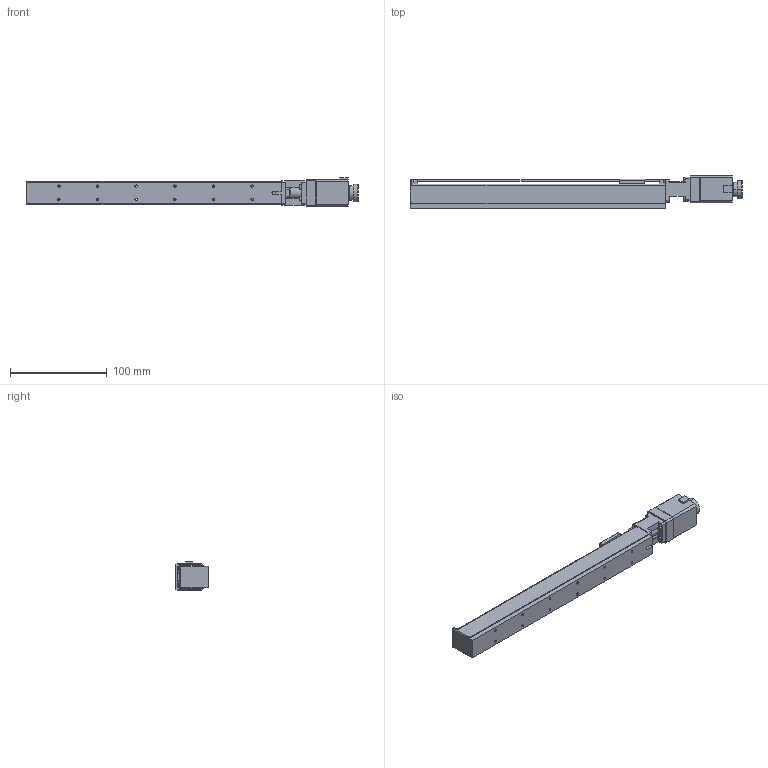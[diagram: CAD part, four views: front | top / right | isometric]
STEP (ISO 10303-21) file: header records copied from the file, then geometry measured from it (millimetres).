
FILE_DESCRIPTION (( 'STEP AP203' ), '1' );
FILE_NAME ('FAS-200-TR.STEP', '2015-08-25T05:04:33', ( '' ), ( '' ), 'SwSTEP 2.0', 'SolidWorks 2015', '' );
FILE_SCHEMA (( 'CONFIG_CONTROL_DESIGN' ));
Length unit declared in the file: millimetre
Products named in the file (1): FAS-200-TR
Bounding box: 343.5 x 33.5 x 30 mm (x, y, z)
Volume: 110711.5 mm3; surface area: 65205.2 mm2
Topology: 5 solids, 9 shells, 261 faces, 663 edges, 426 vertices
Faces by surface type: plane 147, cylinder 98, cone 14, sphere 2
Entity records: 7972 total; most frequent: DIRECTION 1377, CARTESIAN_POINT 1373, ORIENTED_EDGE 1322, EDGE_CURVE 661, AXIS2_PLACEMENT_3D 462, LINE 453, VECTOR 453, VERTEX_POINT 426
